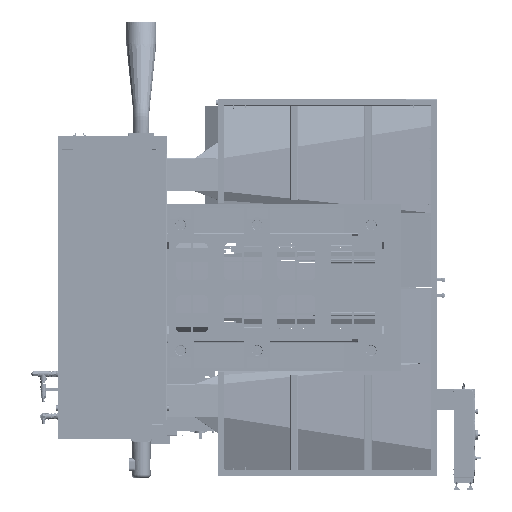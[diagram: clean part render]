
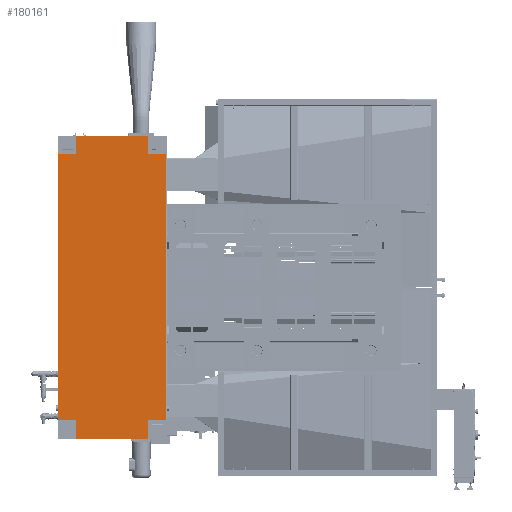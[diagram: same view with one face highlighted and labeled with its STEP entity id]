
A CAD part, front view. The second image highlights one B-rep face of the part: STEP entity #180161.
In plain terms, the highlighted planar face has unit normal (0, -1, 0).
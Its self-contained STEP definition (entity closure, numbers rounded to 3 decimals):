
#2664 = LINE ( 'NONE', #179333, #576883 ) ;
#8974 = DIRECTION ( 'NONE',  ( 0., 0., -1. ) ) ;
#9570 = VERTEX_POINT ( 'NONE', #810277 ) ;
#17518 = VERTEX_POINT ( 'NONE', #554523 ) ;
#23124 = DIRECTION ( 'NONE',  ( 0., 0., -1. ) ) ;
#24502 = DIRECTION ( 'NONE',  ( 0., 0., -1. ) ) ;
#40886 = EDGE_LOOP ( 'NONE', ( #323315, #548908, #184939, #567805, #877849, #284312, #834579, #493416, #678904, #621610, #523955, #135500 ) ) ;
#56644 = CARTESIAN_POINT ( 'NONE',  ( -74.213, 0.749, -106.934 ) ) ;
#70235 = FACE_OUTER_BOUND ( 'NONE', #40886, .T. ) ;
#75334 = PLANE ( 'NONE',  #850696 ) ;
#107745 = LINE ( 'NONE', #825819, #878113 ) ;
#111956 = EDGE_CURVE ( 'NONE', #862054, #17518, #657969, .T. ) ;
#135500 = ORIENTED_EDGE ( 'NONE', *, *, #881360, .T. ) ;
#139809 = LINE ( 'NONE', #306193, #306700 ) ;
#142185 = EDGE_CURVE ( 'NONE', #358967, #741092, #472245, .T. ) ;
#149501 = CARTESIAN_POINT ( 'NONE',  ( -74.213, 0.749, -9.292 ) ) ;
#171660 = VECTOR ( 'NONE', #290433, 39.37 ) ;
#179333 = CARTESIAN_POINT ( 'NONE',  ( -69.575, 0.749, 9.37 ) ) ;
#180161 = ADVANCED_FACE ( 'NONE', ( #70235 ), #75334, .T. ) ;
#184939 = ORIENTED_EDGE ( 'NONE', *, *, #790646, .F. ) ;
#210188 = VECTOR ( 'NONE', #345645, 39.37 ) ;
#219029 = EDGE_CURVE ( 'NONE', #960908, #304018, #925813, .T. ) ;
#228913 = CARTESIAN_POINT ( 'NONE',  ( -74.213, 0.749, -87.244 ) ) ;
#231996 = EDGE_CURVE ( 'NONE', #304018, #741092, #901619, .T. ) ;
#236635 = CARTESIAN_POINT ( 'NONE',  ( -69.488, 0.749, 9.37 ) ) ;
#248366 = LINE ( 'NONE', #867938, #359398 ) ;
#251233 = VERTEX_POINT ( 'NONE', #149501 ) ;
#255893 = VECTOR ( 'NONE', #838896, 39.37 ) ;
#284312 = ORIENTED_EDGE ( 'NONE', *, *, #219029, .F. ) ;
#288576 = CARTESIAN_POINT ( 'NONE',  ( -81.732, 0.749, -82.52 ) ) ;
#290433 = DIRECTION ( 'NONE',  ( 0., 0., -1. ) ) ;
#295565 = CARTESIAN_POINT ( 'NONE',  ( -92.756, 0.749, -111.028 ) ) ;
#304018 = VERTEX_POINT ( 'NONE', #228913 ) ;
#306193 = CARTESIAN_POINT ( 'NONE',  ( -60.543, 0.749, -82.52 ) ) ;
#306700 = VECTOR ( 'NONE', #457211, 39.37 ) ;
#317678 = CARTESIAN_POINT ( 'NONE',  ( -97.394, 0.749, 9.37 ) ) ;
#323315 = ORIENTED_EDGE ( 'NONE', *, *, #111956, .F. ) ;
#339203 = VECTOR ( 'NONE', #982645, 39.37 ) ;
#345645 = DIRECTION ( 'NONE',  ( 1., 0., 0. ) ) ;
#350769 = CARTESIAN_POINT ( 'NONE',  ( -81.732, 0.749, -14.016 ) ) ;
#358967 = VERTEX_POINT ( 'NONE', #591637 ) ;
#359398 = VECTOR ( 'NONE', #8974, 39.37 ) ;
#364109 = CARTESIAN_POINT ( 'NONE',  ( -74.213, 0.749, -14.016 ) ) ;
#381565 = DIRECTION ( 'NONE',  ( 1., 0., 0. ) ) ;
#457211 = DIRECTION ( 'NONE',  ( -1., 0., 0. ) ) ;
#472245 = LINE ( 'NONE', #295565, #171660 ) ;
#493416 = ORIENTED_EDGE ( 'NONE', *, *, #729158, .F. ) ;
#517854 = EDGE_CURVE ( 'NONE', #9570, #960908, #139809, .T. ) ;
#521366 = VECTOR ( 'NONE', #869389, 39.37 ) ;
#523955 = ORIENTED_EDGE ( 'NONE', *, *, #945180, .F. ) ;
#529774 = CARTESIAN_POINT ( 'NONE',  ( -69.575, 0.749, -14.016 ) ) ;
#548908 = ORIENTED_EDGE ( 'NONE', *, *, #605332, .F. ) ;
#554523 = CARTESIAN_POINT ( 'NONE',  ( -92.756, 0.749, -14.016 ) ) ;
#560502 = CARTESIAN_POINT ( 'NONE',  ( -97.394, 0.749, -14.016 ) ) ;
#567805 = ORIENTED_EDGE ( 'NONE', *, *, #142185, .T. ) ;
#576883 = VECTOR ( 'NONE', #23124, 39.37 ) ;
#591637 = CARTESIAN_POINT ( 'NONE',  ( -92.756, 0.749, -82.52 ) ) ;
#597424 = CARTESIAN_POINT ( 'NONE',  ( -85.236, 0.749, -9.292 ) ) ;
#605332 = EDGE_CURVE ( 'NONE', #980701, #862054, #630056, .T. ) ;
#606064 = DIRECTION ( 'NONE',  ( -1., 0., 0. ) ) ;
#621610 = ORIENTED_EDGE ( 'NONE', *, *, #934214, .F. ) ;
#627109 = DIRECTION ( 'NONE',  ( 0., -1., 0. ) ) ;
#630056 = LINE ( 'NONE', #317678, #521366 ) ;
#657969 = LINE ( 'NONE', #350769, #210188 ) ;
#669483 = CARTESIAN_POINT ( 'NONE',  ( -97.394, 0.749, -82.52 ) ) ;
#678904 = ORIENTED_EDGE ( 'NONE', *, *, #960165, .F. ) ;
#684131 = LINE ( 'NONE', #288576, #816956 ) ;
#708837 = VERTEX_POINT ( 'NONE', #529774 ) ;
#715026 = CARTESIAN_POINT ( 'NONE',  ( -74.213, 0.749, -82.52 ) ) ;
#721265 = VERTEX_POINT ( 'NONE', #364109 ) ;
#728836 = CARTESIAN_POINT ( 'NONE',  ( -92.756, 0.749, -87.244 ) ) ;
#729158 = EDGE_CURVE ( 'NONE', #708837, #9570, #2664, .T. ) ;
#741092 = VERTEX_POINT ( 'NONE', #728836 ) ;
#743274 = LINE ( 'NONE', #597424, #339203 ) ;
#745308 = DIRECTION ( 'NONE',  ( 0., 0., -1. ) ) ;
#766843 = LINE ( 'NONE', #787336, #983559 ) ;
#787336 = CARTESIAN_POINT ( 'NONE',  ( -60.543, 0.749, -14.016 ) ) ;
#790646 = EDGE_CURVE ( 'NONE', #358967, #980701, #684131, .T. ) ;
#801670 = CARTESIAN_POINT ( 'NONE',  ( -92.756, 0.749, -9.292 ) ) ;
#801742 = VERTEX_POINT ( 'NONE', #801670 ) ;
#810277 = CARTESIAN_POINT ( 'NONE',  ( -69.575, 0.749, -82.52 ) ) ;
#816956 = VECTOR ( 'NONE', #606064, 39.37 ) ;
#825819 = CARTESIAN_POINT ( 'NONE',  ( -74.213, 0.749, -106.934 ) ) ;
#834579 = ORIENTED_EDGE ( 'NONE', *, *, #517854, .F. ) ;
#838896 = DIRECTION ( 'NONE',  ( -1., 0., 0. ) ) ;
#850696 = AXIS2_PLACEMENT_3D ( 'NONE', #236635, #627109, #934283 ) ;
#862054 = VERTEX_POINT ( 'NONE', #560502 ) ;
#867938 = CARTESIAN_POINT ( 'NONE',  ( -92.756, 0.749, -125.595 ) ) ;
#869389 = DIRECTION ( 'NONE',  ( 0., 0., 1. ) ) ;
#870909 = VECTOR ( 'NONE', #745308, 39.37 ) ;
#877849 = ORIENTED_EDGE ( 'NONE', *, *, #231996, .F. ) ;
#878113 = VECTOR ( 'NONE', #24502, 39.37 ) ;
#881360 = EDGE_CURVE ( 'NONE', #801742, #17518, #248366, .T. ) ;
#901619 = LINE ( 'NONE', #906762, #255893 ) ;
#906762 = CARTESIAN_POINT ( 'NONE',  ( -85.236, 0.749, -87.244 ) ) ;
#925813 = LINE ( 'NONE', #56644, #870909 ) ;
#934214 = EDGE_CURVE ( 'NONE', #251233, #721265, #107745, .T. ) ;
#934283 = DIRECTION ( 'NONE',  ( 1., 0., 0. ) ) ;
#945180 = EDGE_CURVE ( 'NONE', #801742, #251233, #743274, .T. ) ;
#960165 = EDGE_CURVE ( 'NONE', #721265, #708837, #766843, .T. ) ;
#960908 = VERTEX_POINT ( 'NONE', #715026 ) ;
#980701 = VERTEX_POINT ( 'NONE', #669483 ) ;
#982645 = DIRECTION ( 'NONE',  ( 1., 0., 0. ) ) ;
#983559 = VECTOR ( 'NONE', #381565, 39.37 ) ;
